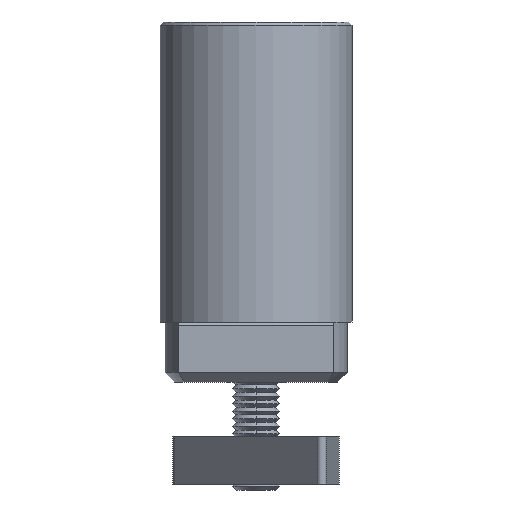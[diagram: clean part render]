
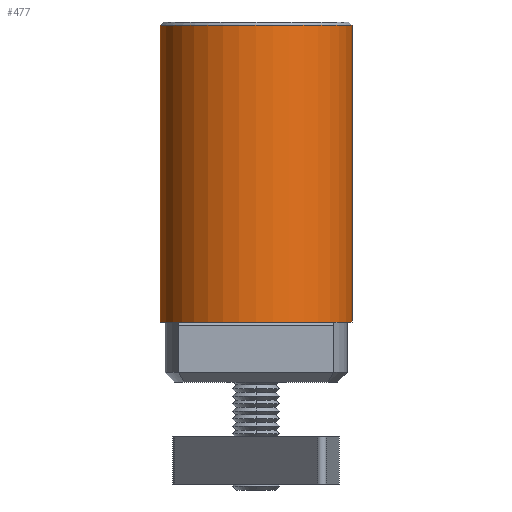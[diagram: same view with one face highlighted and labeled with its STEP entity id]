
A CAD part, front view. The second image highlights one B-rep face of the part: STEP entity #477.
In plain terms, the highlighted cylindrical face has radius 16 mm (diameter 32 mm), a partial arc.
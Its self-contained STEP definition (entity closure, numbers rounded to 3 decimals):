
#163 = VERTEX_POINT ( 'NONE', #1183 ) ;
#169 = VERTEX_POINT ( 'NONE', #1176 ) ;
#457 = ORIENTED_EDGE ( 'NONE', *, *, #3606, .T. ) ;
#477 = ADVANCED_FACE ( 'NONE', ( #1754 ), #1753, .T. ) ;
#478 = EDGE_LOOP ( 'NONE', ( #479, #480, #482, #457 ) ) ;
#479 = ORIENTED_EDGE ( 'NONE', *, *, #3587, .F. ) ;
#480 = ORIENTED_EDGE ( 'NONE', *, *, #481, .T. ) ;
#481 = EDGE_CURVE ( 'NONE', #163, #169, #1751, .T. ) ;
#482 = ORIENTED_EDGE ( 'NONE', *, *, #3614, .T. ) ;
#1176 = CARTESIAN_POINT ( 'NONE',  ( -16., 0., 49.5 ) ) ;
#1183 = CARTESIAN_POINT ( 'NONE',  ( 16., 0., 49.5 ) ) ;
#1744 = DIRECTION ( 'NONE',  ( 1., 0., 0. ) ) ;
#1745 = DIRECTION ( 'NONE',  ( 0., 0., -1. ) ) ;
#1746 = CARTESIAN_POINT ( 'NONE',  ( 0., 0., 49.5 ) ) ;
#1747 = AXIS2_PLACEMENT_3D ( 'NONE', #1746, #1745, #1744 ) ;
#1748 = DIRECTION ( 'NONE',  ( -1., 0., 0. ) ) ;
#1749 = DIRECTION ( 'NONE',  ( 0., 0., -1. ) ) ;
#1750 = AXIS2_PLACEMENT_3D ( 'NONE', #1752, #1749, #1748 ) ;
#1751 = CIRCLE ( 'NONE', #1747, 16. ) ;
#1752 = CARTESIAN_POINT ( 'NONE',  ( 0., 0., 50. ) ) ;
#1753 = CYLINDRICAL_SURFACE ( 'NONE', #1750, 16. ) ;
#1754 = FACE_OUTER_BOUND ( 'NONE', #478, .T. ) ;
#2598 = LINE ( 'NONE', #2657, #2656 ) ;
#2626 = DIRECTION ( 'NONE',  ( 0., 0., 1. ) ) ;
#2627 = CARTESIAN_POINT ( 'NONE',  ( 0., 0., 0. ) ) ;
#2628 = AXIS2_PLACEMENT_3D ( 'NONE', #2627, #2626, #2688 ) ;
#2629 = CIRCLE ( 'NONE', #2628, 16. ) ;
#2649 = CARTESIAN_POINT ( 'NONE',  ( 16., 0., 0. ) ) ;
#2650 = CARTESIAN_POINT ( 'NONE',  ( -16., 0., 0. ) ) ;
#2655 = DIRECTION ( 'NONE',  ( 0., 0., -1. ) ) ;
#2656 = VECTOR ( 'NONE', #2655, 1000. ) ;
#2657 = CARTESIAN_POINT ( 'NONE',  ( 16., 0., 50. ) ) ;
#2669 = DIRECTION ( 'NONE',  ( 0., 0., -1. ) ) ;
#2670 = VECTOR ( 'NONE', #2669, 1000. ) ;
#2671 = CARTESIAN_POINT ( 'NONE',  ( -16., 0., 50. ) ) ;
#2672 = LINE ( 'NONE', #2671, #2670 ) ;
#2688 = DIRECTION ( 'NONE',  ( 1., 0., 0. ) ) ;
#3587 = EDGE_CURVE ( 'NONE', #163, #3591, #2598, .T. ) ;
#3589 = VERTEX_POINT ( 'NONE', #2650 ) ;
#3591 = VERTEX_POINT ( 'NONE', #2649 ) ;
#3606 = EDGE_CURVE ( 'NONE', #3589, #3591, #2629, .T. ) ;
#3614 = EDGE_CURVE ( 'NONE', #169, #3589, #2672, .T. ) ;
